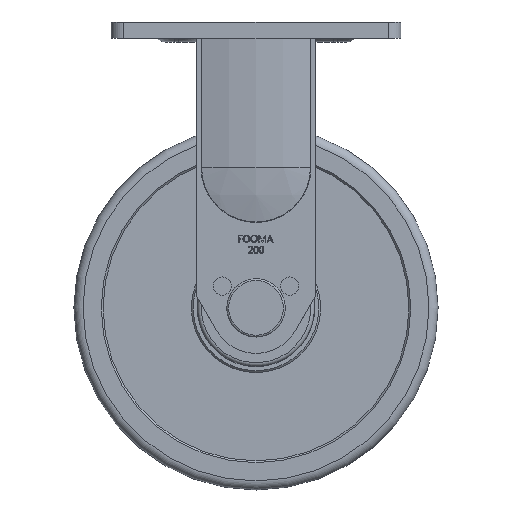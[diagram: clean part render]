
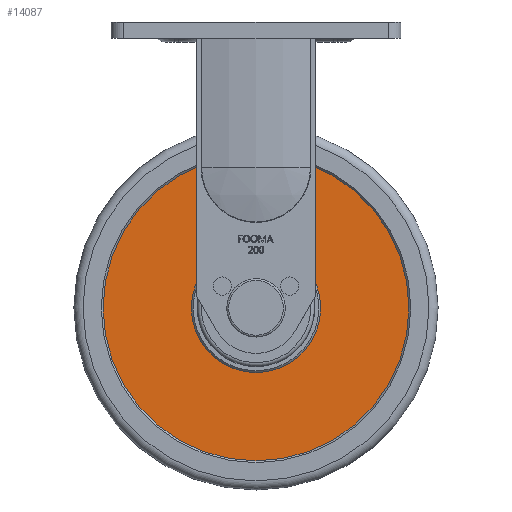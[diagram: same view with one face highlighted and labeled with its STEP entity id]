
A CAD part, front view. The second image highlights one B-rep face of the part: STEP entity #14087.
In plain terms, the highlighted planar face has unit normal (0, -1, 0).
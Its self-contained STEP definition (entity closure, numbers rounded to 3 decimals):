
#1408=FACE_BOUND('',#4548,.T.);
#3704=FACE_OUTER_BOUND('',#4547,.T.);
#4547=EDGE_LOOP('',(#9442));
#4548=EDGE_LOOP('',(#9443));
#5502=CIRCLE('',#14961,35.5);
#5503=CIRCLE('',#14963,84.);
#5781=VERTEX_POINT('',#18126);
#5782=VERTEX_POINT('',#18129);
#7245=EDGE_CURVE('',#5781,#5781,#5502,.T.);
#7246=EDGE_CURVE('',#5782,#5782,#5503,.T.);
#9442=ORIENTED_EDGE('',*,*,#7246,.F.);
#9443=ORIENTED_EDGE('',*,*,#7245,.T.);
#13804=PLANE('',#14962);
#14087=ADVANCED_FACE('',(#3704,#1408),#13804,.T.);
#14961=AXIS2_PLACEMENT_3D('',#18127,#15688,#15689);
#14962=AXIS2_PLACEMENT_3D('',#18128,#15690,#15691);
#14963=AXIS2_PLACEMENT_3D('',#18130,#15692,#15693);
#15688=DIRECTION('center_axis',(0.,1.,0.));
#15689=DIRECTION('ref_axis',(1.,0.,0.));
#15690=DIRECTION('center_axis',(0.,-1.,0.));
#15691=DIRECTION('ref_axis',(0.,0.,-1.));
#15692=DIRECTION('center_axis',(0.,1.,0.));
#15693=DIRECTION('ref_axis',(1.,0.,0.));
#18126=CARTESIAN_POINT('',(0.,-31.,-117.));
#18127=CARTESIAN_POINT('Origin',(0.,-31.,-152.5));
#18128=CARTESIAN_POINT('Origin',(0.,-31.,-68.5));
#18129=CARTESIAN_POINT('',(0.,-31.,-68.5));
#18130=CARTESIAN_POINT('Origin',(0.,-31.,-152.5));
